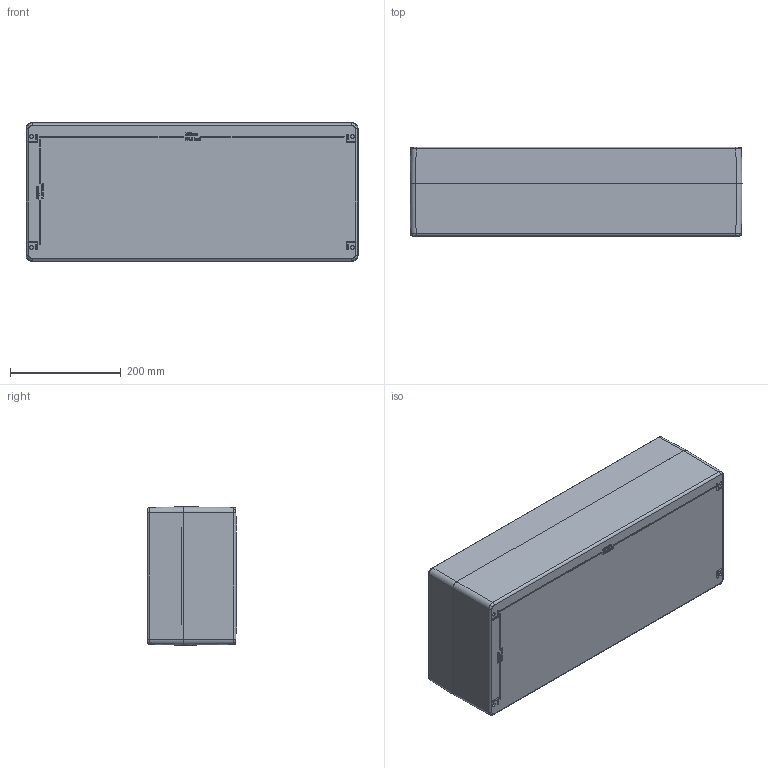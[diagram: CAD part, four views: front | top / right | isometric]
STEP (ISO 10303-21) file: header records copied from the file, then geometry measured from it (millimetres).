
FILE_DESCRIPTION (( 'STEP AP203' ), '1' );
FILE_NAME ('GRP ASSY 600250160.STEP', '2024-08-26T12:29:50', ( '' ), ( '' ), 'SwSTEP 2.0', 'SolidWorks 2018', '' );
FILE_SCHEMA (( 'CONFIG_CONTROL_DESIGN' ));
Length unit declared in the file: millimetre
Products named in the file (5): M6 SS TOP INSERT; GRP ASSY 600250160; GRP LID 600250160; M6 BOTTOM INSERT; GRP BASE 600250160
Assembly tree (14 placements, depth 2):
  GRP ASSY 600250160
    GRP BASE 600250160
    GRP LID 600250160
    M6 SS TOP INSERT  x6
    M6 BOTTOM INSERT  x6
Bounding box: 600 x 161 x 250 mm (x, y, z)
Volume: 3642624.1 mm3; surface area: 1152639.8 mm2
Topology: 14 solids, 14 shells, 1742 faces, 4201 edges, 2571 vertices
Faces by surface type: plane 495, bspline 414, cylinder 388, cone 253, torus 180, sphere 12
Entity records: 56886 total; most frequent: CARTESIAN_POINT 27916, ORIENTED_EDGE 6354, DIRECTION 5122, EDGE_CURVE 3177, VERTEX_POINT 1941, AXIS2_PLACEMENT_3D 1915, EDGE_LOOP 1430, ADVANCED_FACE 1327
